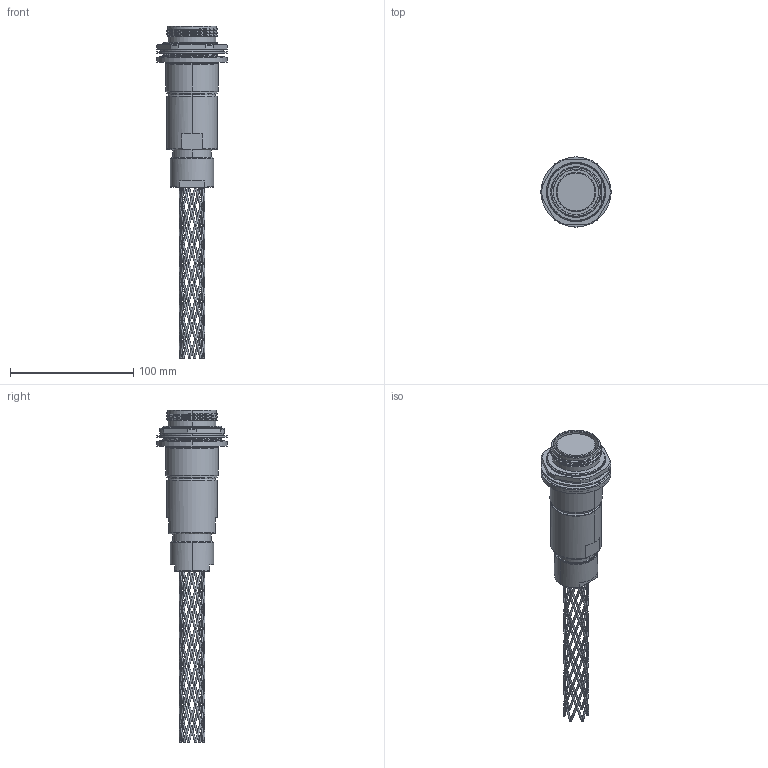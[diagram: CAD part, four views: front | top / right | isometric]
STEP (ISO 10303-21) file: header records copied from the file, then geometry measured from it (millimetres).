
FILE_DESCRIPTION (( 'STEP AP214' ), '1' );
FILE_NAME ('QLINK-RJTX-25XX-GXXX.STEP', '2025-09-30T22:33:56', ( '' ), ( '' ), 'SwSTEP 2.0', 'SolidWorks 2024', '' );
FILE_SCHEMA (( 'AUTOMOTIVE_DESIGN' ));
Products named in the file (1): QLINK-RJTX-25XX-GXXX
Bounding box: 56.9 x 56.9 x 269.13 mm (x, y, z)
Volume: 171420.6 mm3; surface area: 41866.8 mm2
Topology: 2 solids, 2 shells, 446 faces, 1249 edges, 716 vertices
Faces by surface type: bspline 248, cylinder 82, plane 57, cone 37, torus 22
Entity records: 123939 total; most frequent: CARTESIAN_POINT 115348, ORIENTED_EDGE 2498, EDGE_CURVE 1249, DIRECTION 1112, VERTEX_POINT 716, AXIS2_PLACEMENT_3D 478, EDGE_LOOP 471, FACE_OUTER_BOUND 446
